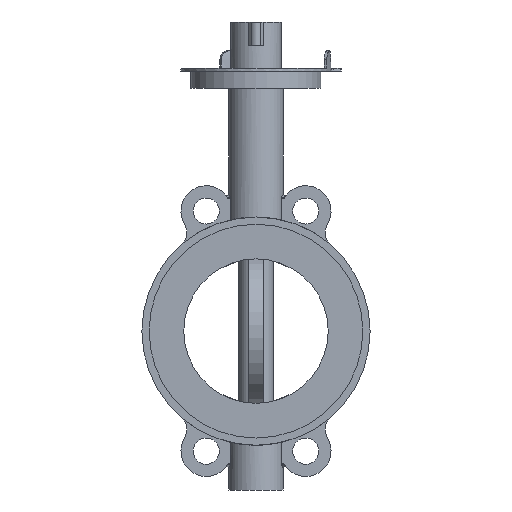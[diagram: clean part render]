
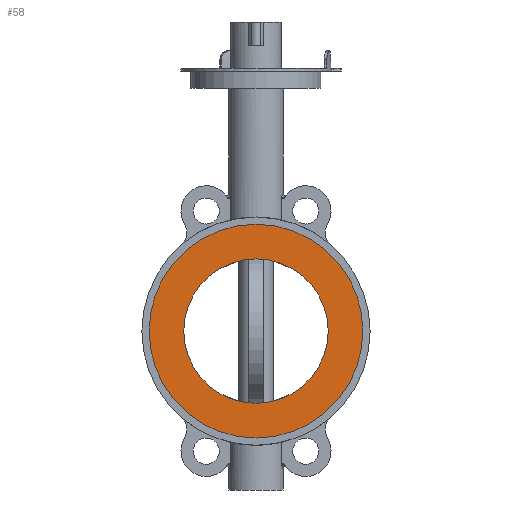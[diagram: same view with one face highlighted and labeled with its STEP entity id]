
A CAD part, left-side view. The second image highlights one B-rep face of the part: STEP entity #58.
In plain terms, the highlighted planar face has unit normal (-1, 0, 0).
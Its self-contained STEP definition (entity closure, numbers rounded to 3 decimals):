
#58=ADVANCED_FACE('',(#6835,#6837),#6839,.F.);
#6835=FACE_BOUND('',#6836,.T.);
#6836=EDGE_LOOP('',(#13056));
#6837=FACE_BOUND('',#6838,.T.);
#6838=EDGE_LOOP('',(#13057));
#6839=PLANE('',#6840);
#6840=AXIS2_PLACEMENT_3D('',#6841,#6842,#6843);
#6841=CARTESIAN_POINT('',(-26.,0.,0.));
#6842=DIRECTION('',(1.,0.,0.));
#6843=DIRECTION('',(0.,1.,0.));
#13056=ORIENTED_EDGE('',*,*,#17389,.T.);
#13057=ORIENTED_EDGE('',*,*,#17390,.T.);
#17389=EDGE_CURVE('',#19587,#19587,#19588,.F.);
#17390=EDGE_CURVE('',#19589,#19589,#19590,.T.);
#19587=VERTEX_POINT('',#23212);
#19588=CIRCLE('',#23213,74.);
#19589=VERTEX_POINT('',#23217);
#19590=CIRCLE('',#23218,50.);
#23212=CARTESIAN_POINT('',(-26.,74.,0.));
#23213=AXIS2_PLACEMENT_3D('',#23214,#23215,#23216);
#23214=CARTESIAN_POINT('',(-26.,0.,0.));
#23215=DIRECTION('',(1.,0.,0.));
#23216=DIRECTION('',(0.,1.,0.));
#23217=CARTESIAN_POINT('',(-26.,50.,0.));
#23218=AXIS2_PLACEMENT_3D('',#23219,#23220,#23221);
#23219=CARTESIAN_POINT('',(-26.,0.,0.));
#23220=DIRECTION('',(1.,0.,0.));
#23221=DIRECTION('',(0.,1.,0.));
